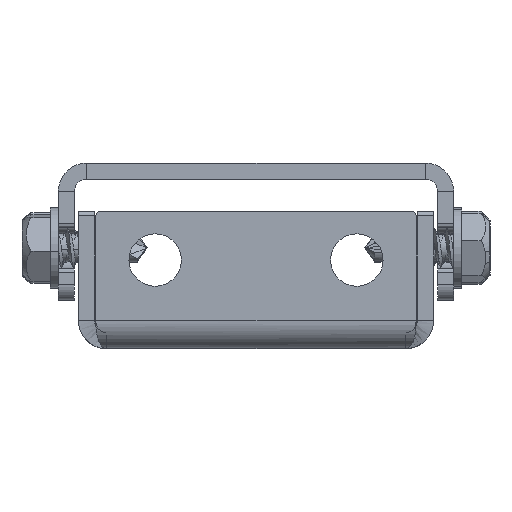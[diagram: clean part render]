
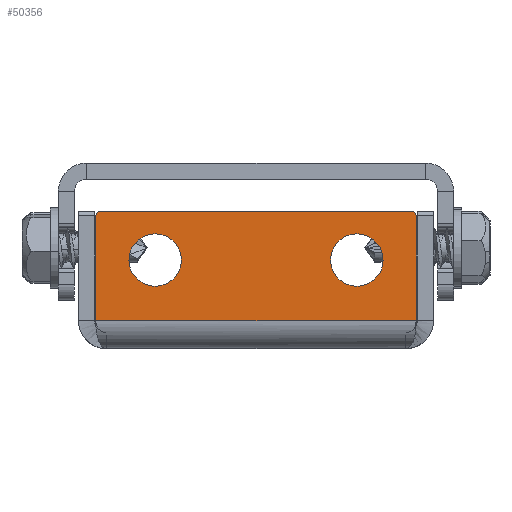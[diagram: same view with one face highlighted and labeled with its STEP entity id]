
A CAD part, left-side view. The second image highlights one B-rep face of the part: STEP entity #50356.
In plain terms, the highlighted planar face has unit normal (-1, 0, 0).
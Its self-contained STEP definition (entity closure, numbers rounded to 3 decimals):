
#399 = EDGE_CURVE ( 'NONE', #14475, #30437, #53653, .T. ) ;
#1230 = VERTEX_POINT ( 'NONE', #24376 ) ;
#1380 = AXIS2_PLACEMENT_3D ( 'NONE', #63765, #23201, #71283 ) ;
#1817 = EDGE_CURVE ( 'NONE', #1230, #38201, #7565, .T. ) ;
#1904 = EDGE_CURVE ( 'NONE', #35089, #60625, #60135, .T. ) ;
#4402 = ORIENTED_EDGE ( 'NONE', *, *, #1904, .T. ) ;
#4751 = CARTESIAN_POINT ( 'NONE',  ( -26., 0., -17. ) ) ;
#5521 = FACE_BOUND ( 'NONE', #42380, .T. ) ;
#5777 = ORIENTED_EDGE ( 'NONE', *, *, #399, .T. ) ;
#7288 = CARTESIAN_POINT ( 'NONE',  ( -26., 19.859, -3.5 ) ) ;
#7565 = LINE ( 'NONE', #61636, #37294 ) ;
#8351 = DIRECTION ( 'NONE',  ( 0., 0., -1. ) ) ;
#8581 = VERTEX_POINT ( 'NONE', #66052 ) ;
#9909 = DIRECTION ( 'NONE',  ( -1., 0., 0. ) ) ;
#9930 = VECTOR ( 'NONE', #41323, 1000. ) ;
#10213 = ORIENTED_EDGE ( 'NONE', *, *, #36939, .T. ) ;
#13758 = EDGE_LOOP ( 'NONE', ( #43710, #36636, #66101, #29132, #44542, #36363 ) ) ;
#14074 = AXIS2_PLACEMENT_3D ( 'NONE', #40768, #16159, #34815 ) ;
#14475 = VERTEX_POINT ( 'NONE', #15206 ) ;
#14718 = DIRECTION ( 'NONE',  ( 0., 0., -1. ) ) ;
#15206 = CARTESIAN_POINT ( 'NONE',  ( -26., -12.5, -14.25 ) ) ;
#15891 = CARTESIAN_POINT ( 'NONE',  ( -26., 12.5, -11. ) ) ;
#16159 = DIRECTION ( 'NONE',  ( 1., 0., 0. ) ) ;
#16182 = AXIS2_PLACEMENT_3D ( 'NONE', #54028, #48054, #78262 ) ;
#17038 = VERTEX_POINT ( 'NONE', #7288 ) ;
#17282 = CARTESIAN_POINT ( 'NONE',  ( -26., 19.859, -3.5 ) ) ;
#17473 = LINE ( 'NONE', #4751, #9930 ) ;
#18649 = VERTEX_POINT ( 'NONE', #73586 ) ;
#19515 = DIRECTION ( 'NONE',  ( 0., 0., -1. ) ) ;
#20512 = EDGE_CURVE ( 'NONE', #18649, #8581, #51382, .T. ) ;
#22258 = DIRECTION ( 'NONE',  ( 1., 0., 0. ) ) ;
#23201 = DIRECTION ( 'NONE',  ( 1., 0., 0. ) ) ;
#24376 = CARTESIAN_POINT ( 'NONE',  ( -26., -19.859, -3.5 ) ) ;
#25899 = AXIS2_PLACEMENT_3D ( 'NONE', #15891, #22258, #63579 ) ;
#28646 = ORIENTED_EDGE ( 'NONE', *, *, #77752, .T. ) ;
#29020 = LINE ( 'NONE', #54032, #46286 ) ;
#29132 = ORIENTED_EDGE ( 'NONE', *, *, #41889, .F. ) ;
#30437 = VERTEX_POINT ( 'NONE', #64455 ) ;
#31789 = CARTESIAN_POINT ( 'NONE',  ( -26., -12.5, -11. ) ) ;
#31960 = EDGE_CURVE ( 'NONE', #8581, #64742, #17473, .T. ) ;
#32190 = DIRECTION ( 'NONE',  ( 1., 0., 0. ) ) ;
#34578 = AXIS2_PLACEMENT_3D ( 'NONE', #31789, #32190, #19515 ) ;
#34815 = DIRECTION ( 'NONE',  ( 0., 0., -1. ) ) ;
#35089 = VERTEX_POINT ( 'NONE', #57590 ) ;
#35655 = CIRCLE ( 'NONE', #1380, 3.25 ) ;
#36363 = ORIENTED_EDGE ( 'NONE', *, *, #20512, .T. ) ;
#36636 = ORIENTED_EDGE ( 'NONE', *, *, #47759, .T. ) ;
#36939 = EDGE_CURVE ( 'NONE', #30437, #14475, #59731, .T. ) ;
#37294 = VECTOR ( 'NONE', #8351, 1000. ) ;
#37372 = CIRCLE ( 'NONE', #69071, 0.5 ) ;
#38201 = VERTEX_POINT ( 'NONE', #52323 ) ;
#38292 = CARTESIAN_POINT ( 'NONE',  ( -26., -19.359, -17. ) ) ;
#38618 = VECTOR ( 'NONE', #59781, 1000. ) ;
#40501 = CARTESIAN_POINT ( 'NONE',  ( -26., -19.359, -16.5 ) ) ;
#40768 = CARTESIAN_POINT ( 'NONE',  ( -26., -12.5, -11. ) ) ;
#41323 = DIRECTION ( 'NONE',  ( 0., -1., 0. ) ) ;
#41889 = EDGE_CURVE ( 'NONE', #17038, #1230, #29020, .T. ) ;
#42380 = EDGE_LOOP ( 'NONE', ( #5777, #10213 ) ) ;
#42488 = FACE_OUTER_BOUND ( 'NONE', #13758, .T. ) ;
#43710 = ORIENTED_EDGE ( 'NONE', *, *, #31960, .T. ) ;
#44542 = ORIENTED_EDGE ( 'NONE', *, *, #71942, .T. ) ;
#44799 = DIRECTION ( 'NONE',  ( 0., 0., -1. ) ) ;
#46286 = VECTOR ( 'NONE', #71915, 1000. ) ;
#47478 = LINE ( 'NONE', #17282, #38618 ) ;
#47759 = EDGE_CURVE ( 'NONE', #64742, #38201, #37372, .T. ) ;
#48054 = DIRECTION ( 'NONE',  ( 1., 0., 0. ) ) ;
#50356 = ADVANCED_FACE ( 'NONE', ( #5521, #55211, #42488 ), #66750, .F. ) ;
#51382 = CIRCLE ( 'NONE', #56449, 0.5 ) ;
#52321 = CARTESIAN_POINT ( 'NONE',  ( -26., 19.359, -16.5 ) ) ;
#52323 = CARTESIAN_POINT ( 'NONE',  ( -26., -19.859, -16.5 ) ) ;
#53653 = CIRCLE ( 'NONE', #34578, 3.25 ) ;
#54028 = CARTESIAN_POINT ( 'NONE',  ( -26., 0., 0. ) ) ;
#54032 = CARTESIAN_POINT ( 'NONE',  ( -26., -18.5, -3.5 ) ) ;
#55211 = FACE_BOUND ( 'NONE', #56018, .T. ) ;
#56018 = EDGE_LOOP ( 'NONE', ( #28646, #4402 ) ) ;
#56449 = AXIS2_PLACEMENT_3D ( 'NONE', #52321, #76571, #44799 ) ;
#57590 = CARTESIAN_POINT ( 'NONE',  ( -26., 12.5, -7.75 ) ) ;
#59731 = CIRCLE ( 'NONE', #14074, 3.25 ) ;
#59781 = DIRECTION ( 'NONE',  ( 0., 0., -1. ) ) ;
#60135 = CIRCLE ( 'NONE', #25899, 3.25 ) ;
#60625 = VERTEX_POINT ( 'NONE', #78543 ) ;
#61636 = CARTESIAN_POINT ( 'NONE',  ( -26., -19.859, -3.5 ) ) ;
#63579 = DIRECTION ( 'NONE',  ( 0., 0., -1. ) ) ;
#63765 = CARTESIAN_POINT ( 'NONE',  ( -26., 12.5, -11. ) ) ;
#64455 = CARTESIAN_POINT ( 'NONE',  ( -26., -12.5, -7.75 ) ) ;
#64742 = VERTEX_POINT ( 'NONE', #38292 ) ;
#66052 = CARTESIAN_POINT ( 'NONE',  ( -26., 19.359, -17. ) ) ;
#66101 = ORIENTED_EDGE ( 'NONE', *, *, #1817, .F. ) ;
#66750 = PLANE ( 'NONE',  #16182 ) ;
#69071 = AXIS2_PLACEMENT_3D ( 'NONE', #40501, #9909, #14718 ) ;
#71283 = DIRECTION ( 'NONE',  ( 0., 0., -1. ) ) ;
#71915 = DIRECTION ( 'NONE',  ( 0., -1., 0. ) ) ;
#71942 = EDGE_CURVE ( 'NONE', #17038, #18649, #47478, .T. ) ;
#73586 = CARTESIAN_POINT ( 'NONE',  ( -26., 19.859, -16.5 ) ) ;
#76571 = DIRECTION ( 'NONE',  ( -1., 0., 0. ) ) ;
#77752 = EDGE_CURVE ( 'NONE', #60625, #35089, #35655, .T. ) ;
#78262 = DIRECTION ( 'NONE',  ( 0., 0., -1. ) ) ;
#78543 = CARTESIAN_POINT ( 'NONE',  ( -26., 12.5, -14.25 ) ) ;
